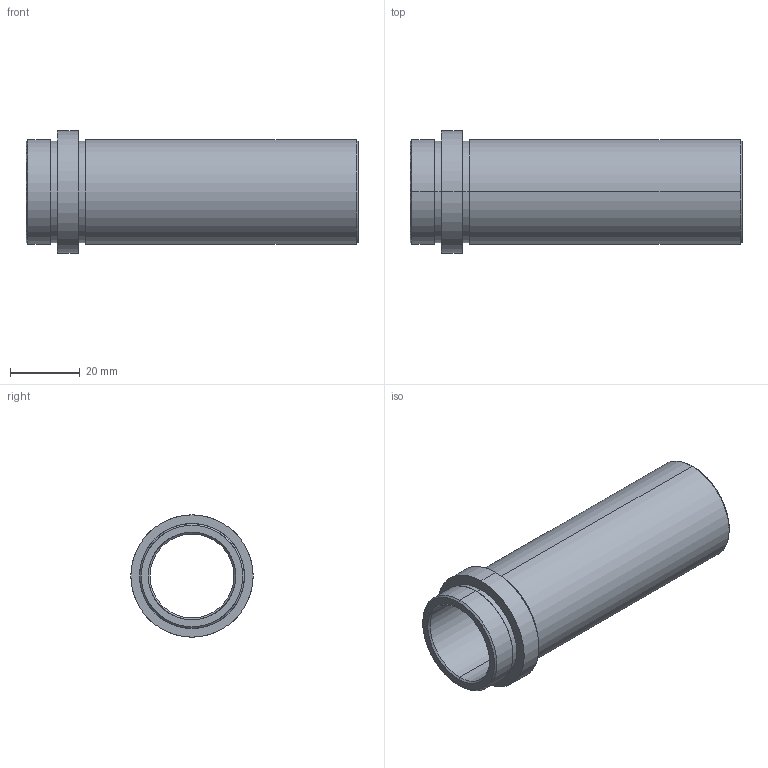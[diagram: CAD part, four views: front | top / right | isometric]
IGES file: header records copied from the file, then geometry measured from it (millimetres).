
Start section: SolidWorks IGES FILE using analytic representation for surfaces
Global section: file name: D:\zzzzz\Delta\D21\24\D21 - 24x86.IGS; native system: SolidWorks 2004 by SolidWorks Corporation; preprocessor: Version 5.3; author: Hkn; date: 080326.192809; units: millimetre
Bounding box: 95 x 35 x 35 mm (x, y, z)
Surface area: 17303.5 mm2 (no closed solid volume)
Topology: 0 solids, 0 shells, 26 faces, 784 edges, 784 vertices
Faces by surface type: revolution 20, bspline 6
